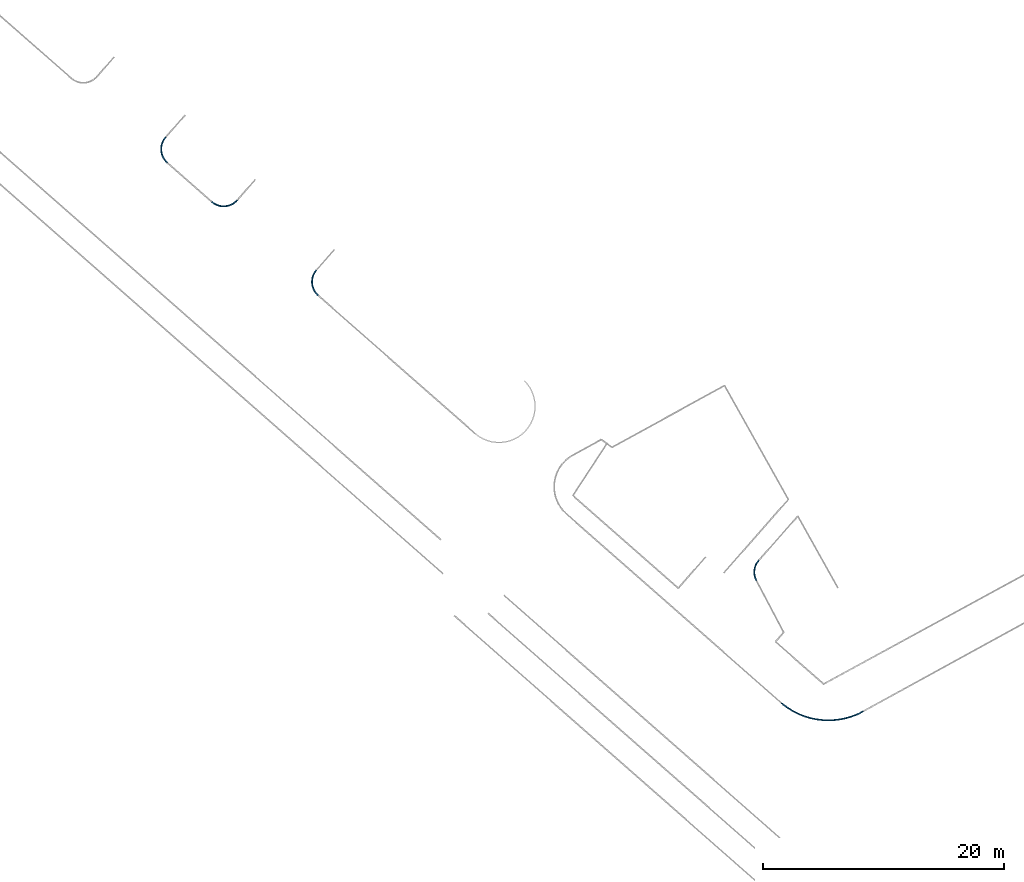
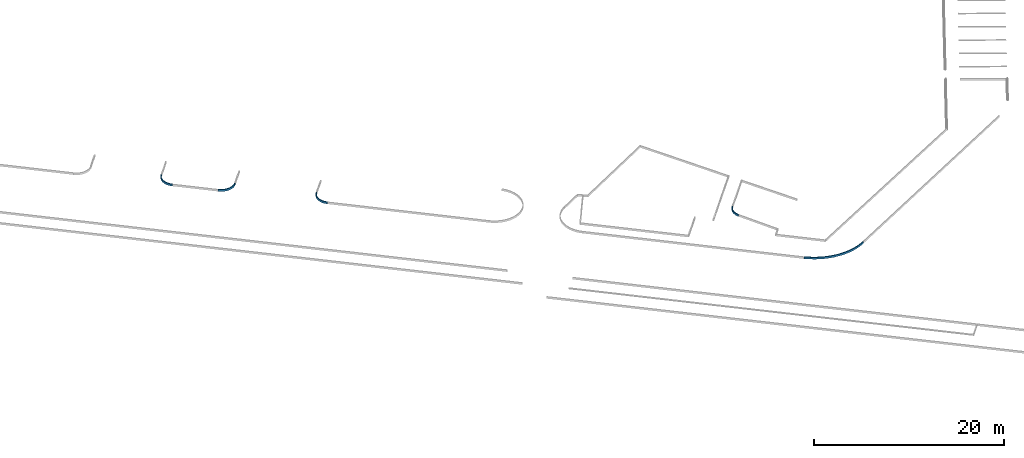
# One storey, part 21 of 24: 5 beams.
"""IFC2X3 building model written with IfcOpenShell, lengths in millimetres."""

import ifcopenshell
import ifcopenshell.guid

model = None  # the IFC model being written
_history = None  # IfcOwnerHistory: only IFC2X3 demands one
_inside = {}  # id of a spatial element -> (the spatial element, [elements in it])
_under = {}  # id of a project, library or spatial element -> (it, [spatial elements below it])
_declared = {}  # id of a project -> (the project, [libraries it declares])
_typed = {}  # id of a type object -> (the type object, [elements of that type])
_made_of = {}  # id of a material, layer set ... -> (it, [elements and type objects made of it])


def new_model(schema):
    """Start an empty IFC model of exactly this schema.

    Asked for "IFC4X3", IfcOpenShell would pick the latest addendum, in which some entities
    have other attributes; the version numbers below select the first issue.
    IFC2X3 requires an IfcOwnerHistory on every rooted entity: one is made here for all.
    """
    global model, _history
    if schema == "IFC4X3":
        model = ifcopenshell.file(schema_version=(4, 3, 0, 0))
    else:
        model = ifcopenshell.file(schema=schema)
    _inside.clear()
    _under.clear()
    _declared.clear()
    _typed.clear()
    _made_of.clear()
    _history = None
    if model.schema == "IFC2X3":
        org = make("IfcOrganization", Name="unknown")
        user = make(
            "IfcPersonAndOrganization",
            ThePerson=make("IfcPerson", FamilyName="unknown"),
            TheOrganization=org,
        )
        app = make(
            "IfcApplication",
            ApplicationDeveloper=org,
            Version="unknown",
            ApplicationFullName="unknown",
            ApplicationIdentifier="unknown",
        )
        _history = make(
            "IfcOwnerHistory",
            OwningUser=user,
            OwningApplication=app,
            ChangeAction="ADDED",
            CreationDate=0,
        )
    return model


def make(cls, **values):
    """One entity of the class cls with the attributes given. An attribute that is None is left unset."""
    return model.create_entity(
        cls, **{name: value for name, value in values.items() if value is not None}
    )


def entity(cls, *values):
    """Any entity or typed value of the class cls, its attributes in the order of the schema. None: left unset."""
    e = model.create_entity(cls)
    for i, value in enumerate(values):
        if value is not None:
            e[i] = value
    return e


def rooted(cls, **values):
    """An entity with a GlobalId (a new one), such as an element, a storey or a relation."""
    return make(cls, GlobalId=ifcopenshell.guid.new(), OwnerHistory=_history, **values)


def si_unit(unit_type, name, prefix=None):
    """IfcSIUnit, for example si_unit("LENGTHUNIT", "METRE", prefix="MILLI")."""
    return make("IfcSIUnit", UnitType=unit_type, Prefix=prefix, Name=name)


def converted_unit(unit_type, name, factor, base, dimensions=None, offset=None):
    """IfcConversionBasedUnit, such as the inch: factor (a typed value) times the base unit."""
    return make(
        "IfcConversionBasedUnit"
        if offset is None
        else "IfcConversionBasedUnitWithOffset",
        ConversionOffset=offset,
        Dimensions=None
        if dimensions is None
        else entity("IfcDimensionalExponents", *dimensions),
        UnitType=unit_type,
        Name=name,
        ConversionFactor=make(
            "IfcMeasureWithUnit", ValueComponent=factor, UnitComponent=base
        ),
    )


def derived_unit(unit_type, elements):
    """IfcDerivedUnit: a product of units, each with its exponent."""
    return make(
        "IfcDerivedUnit",
        Elements=[
            make("IfcDerivedUnitElement", Unit=unit, Exponent=power)
            for unit, power in elements
        ],
        UnitType=unit_type,
    )


def assignment(units):
    """IfcUnitAssignment: the units of a project."""
    return None if units is None else make("IfcUnitAssignment", Units=units)


def point(xyz):
    """IfcCartesianPoint."""
    return None if xyz is None else make("IfcCartesianPoint", Coordinates=xyz)


def direction(xyz):
    """IfcDirection."""
    return None if xyz is None else make("IfcDirection", DirectionRatios=xyz)


def frame(location, z_axis=None, x_axis=None):
    """IfcAxis2Placement3D, a coordinate frame: its origin and axes. An axis left out is left unset."""
    return make(
        "IfcAxis2Placement3D",
        Location=point(location),
        Axis=direction(z_axis),
        RefDirection=direction(x_axis),
    )


def origin():
    """The frame at (0, 0, 0) with its axes left unset."""
    return frame((0.0, 0.0, 0.0))


def place(relative_to, where):
    """IfcLocalPlacement: puts the frame where relative to a parent placement (None: the world)."""
    return make(
        "IfcLocalPlacement", PlacementRelTo=relative_to, RelativePlacement=where
    )


def context(
    kind, dimensions, precision=None, world=None, true_north=None, identifier=None
):
    """IfcGeometricRepresentationContext, for example the 3D "Model" context."""
    return make(
        "IfcGeometricRepresentationContext",
        ContextIdentifier=identifier,
        ContextType=kind,
        CoordinateSpaceDimension=dimensions,
        Precision=precision,
        WorldCoordinateSystem=world,
        TrueNorth=true_north,
    )


def subcontext(parent, identifier, kind, view, scale=None):
    """IfcGeometricRepresentationSubContext, for example "Body" below "Model"."""
    return make(
        "IfcGeometricRepresentationSubContext",
        ContextIdentifier=identifier,
        ContextType=kind,
        ParentContext=parent,
        TargetScale=scale,
        TargetView=view,
    )


def project(units=None, contexts=None):
    """IfcProject with its units and contexts."""
    return rooted(
        "IfcProject",
        Name="project",
        RepresentationContexts=contexts,
        UnitsInContext=assignment(units),
    )


def spatial(cls, under=None, at=None, **own):
    """A site, building, storey or space (cls), placed at a placement, below another one or the project."""
    s = rooted(cls, ObjectPlacement=at, **own)
    if under is not None:
        _under.setdefault(under.id(), (under, []))[1].append(s)
    return s


def faces_of(points, faces, orient=None, outer=None):
    """IfcFace entities. A face is a list of loops; a loop is a list of indices into points, from 0.

    orient and outer hold one flag for each loop. By default every Orientation is true, the
    first loop of a face is its IfcFaceOuterBound and the others are IfcFaceBound.
    """
    made = []
    for i, loops in enumerate(faces):
        bounds = []
        for j, loop in enumerate(loops):
            is_outer = j == 0 if outer is None else outer[i][j]
            bounds.append(
                make(
                    "IfcFaceOuterBound" if is_outer else "IfcFaceBound",
                    Bound=make("IfcPolyLoop", Polygon=[points[k] for k in loop]),
                    Orientation=True if orient is None else orient[i][j],
                )
            )
        made.append(make("IfcFace", Bounds=bounds))
    return made


def faceted_brep(points, faces, orient=None, outer=None, voids=None):
    """IfcFacetedBrep: a solid bounded by flat faces; with voids (closed shells), ...WithVoids."""
    shared = [point(p) for p in points]
    hull = make("IfcClosedShell", CfsFaces=faces_of(shared, faces, orient, outer))
    if voids is None:
        return make("IfcFacetedBrep", Outer=hull)
    return make(
        "IfcFacetedBrepWithVoids",
        Outer=hull,
        Voids=[
            make(cls, CfsFaces=faces_of(shared, fs, o, b)) for cls, fs, o, b in voids
        ],
    )


def shape(context_of_items, identifier, shape_type, items):
    """IfcShapeRepresentation: the items that make up one representation, for example the "Body"."""
    return make(
        "IfcShapeRepresentation",
        ContextOfItems=context_of_items,
        RepresentationIdentifier=identifier,
        RepresentationType=shape_type,
        Items=items,
    )


def material(Name=None, Category=None):
    """IfcMaterial."""
    return make("IfcMaterial", Name=Name, Category=Category)


def made_of(thing, what):
    """Note that an element or type object is made of a material, layer set ...; save() writes the relation."""
    if what is not None:
        _made_of.setdefault(what.id(), (what, []))[1].append(thing)
    return thing


def type_object(cls, material=None, **own):
    """A type object (cls), such as IfcWallType, which elements share."""
    return made_of(rooted(cls, **own), material)


def element(
    cls,
    number,
    at=None,
    inside=None,
    cuts=None,
    type_object=None,
    material=None,
    context=None,
    identifier="Body",
    shape_type=None,
    held_by="IfcProductDefinitionShape",
    body=None,
    shapes=None,
    **own,
):
    """One element of the class cls, such as IfcWall. Its Tag is "e" and its number.

    at: its placement. inside: the storey or other place that contains it. cuts: it is an
    opening in that element (IfcRelVoidsElement). A single representation is given by context,
    identifier, shape_type and body (its items); several are given by shapes. held_by: the class
    of the entity that holds the representations. save() writes the other relations.
    """
    e = rooted(cls, Tag="e%d" % number, ObjectPlacement=at, **own)
    if body is not None:
        shapes = [shape(context, identifier, shape_type, body)]
    if shapes is not None:
        e.Representation = make(held_by, Representations=shapes)
    if inside is not None:
        _inside.setdefault(inside.id(), (inside, []))[1].append(e)
    if cuts is not None:
        rooted(
            "IfcRelVoidsElement", RelatingBuildingElement=cuts, RelatedOpeningElement=e
        )
    if type_object is not None:
        _typed.setdefault(type_object.id(), (type_object, []))[1].append(e)
    return made_of(e, material)


def aggregate(whole, parts):
    """IfcRelAggregates: a whole, such as a stair, and the parts it consists of."""
    return rooted("IfcRelAggregates", RelatingObject=whole, RelatedObjects=parts)


def save(model, path):
    """Write the relations noted so far, then the file.

    IfcRelAggregates (storeys below a building ...), IfcRelContainedInSpatialStructure (elements
    in a storey), IfcRelDefinesByType, IfcRelAssociatesMaterial and IfcRelDeclares: one each for
    every whole, place, type object, material and project.
    """
    for whole, parts in _under.values():
        aggregate(whole, parts)
    for where, things in _inside.values():
        rooted(
            "IfcRelContainedInSpatialStructure",
            RelatedElements=things,
            RelatingStructure=where,
        )
    for kind, things in _typed.values():
        rooted("IfcRelDefinesByType", RelatedObjects=things, RelatingType=kind)
    for what, things in _made_of.values():
        rooted("IfcRelAssociatesMaterial", RelatedObjects=things, RelatingMaterial=what)
    for by, libraries in _declared.values():
        rooted("IfcRelDeclares", RelatingContext=by, RelatedDefinitions=libraries)
    model.write(path)


model = new_model("IFC2X3")

# Units and contexts
model_context = context("Model", 3, precision=0.01, world=origin(), true_north=direction((6.123031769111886e-17, 1.0)))
body_context = subcontext(model_context, "Body", "Model", "MODEL_VIEW")
ifc_project = project(units=[si_unit("LENGTHUNIT", "METRE", prefix="MILLI"), si_unit("AREAUNIT", "SQUARE_METRE"), si_unit("VOLUMEUNIT", "CUBIC_METRE"), converted_unit("PLANEANGLEUNIT", "DEGREE", entity("IfcRatioMeasure", 0.017453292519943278), si_unit("PLANEANGLEUNIT", "RADIAN"), dimensions=[0, 0, 0, 0, 0, 0, 0]), si_unit("MASSUNIT", "GRAM", prefix="KILO"), derived_unit("MASSDENSITYUNIT", [(si_unit("MASSUNIT", "GRAM", prefix="KILO"), 1), (si_unit("LENGTHUNIT", "METRE"), -3)]), derived_unit("MOMENTOFINERTIAUNIT", [(si_unit("LENGTHUNIT", "METRE"), 4)]), si_unit("TIMEUNIT", "SECOND"), si_unit("FREQUENCYUNIT", "HERTZ"), si_unit("THERMODYNAMICTEMPERATUREUNIT", "DEGREE_CELSIUS"), derived_unit("THERMALTRANSMITTANCEUNIT", [(si_unit("MASSUNIT", "GRAM", prefix="KILO"), 1), (si_unit("THERMODYNAMICTEMPERATUREUNIT", "KELVIN"), -1), (si_unit("TIMEUNIT", "SECOND"), -3)]), derived_unit("THERMALCONDUCTANCEUNIT", [(si_unit("MASSUNIT", "GRAM", prefix="KILO"), 1), (si_unit("LENGTHUNIT", "METRE"), 1), (si_unit("THERMODYNAMICTEMPERATUREUNIT", "KELVIN"), -1), (si_unit("TIMEUNIT", "SECOND"), -3)]), derived_unit("VOLUMETRICFLOWRATEUNIT", [(si_unit("LENGTHUNIT", "METRE"), 3), (si_unit("TIMEUNIT", "SECOND"), -1)]), derived_unit("MASSFLOWRATEUNIT", [(si_unit("MASSUNIT", "GRAM", prefix="KILO"), 1), (si_unit("TIMEUNIT", "SECOND"), -1)]), derived_unit("ROTATIONALFREQUENCYUNIT", [(si_unit("TIMEUNIT", "SECOND"), -1)]), si_unit("ELECTRICCURRENTUNIT", "AMPERE"), si_unit("ELECTRICVOLTAGEUNIT", "VOLT"), si_unit("POWERUNIT", "WATT"), converted_unit("FORCEUNIT", "KIP", entity("IfcRatioMeasure", 2.088543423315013e-05), si_unit("FORCEUNIT", "NEWTON"), dimensions=[1, 1, -2, 0, 0, 0, 0]), si_unit("ILLUMINANCEUNIT", "LUX"), si_unit("LUMINOUSFLUXUNIT", "LUMEN"), si_unit("LUMINOUSINTENSITYUNIT", "CANDELA"), derived_unit("USERDEFINED", [(si_unit("MASSUNIT", "GRAM", prefix="KILO"), -1), (si_unit("LENGTHUNIT", "METRE"), -2), (si_unit("TIMEUNIT", "SECOND"), 3), (si_unit("LUMINOUSFLUXUNIT", "LUMEN"), 1)]), derived_unit("USERDEFINED", [(si_unit("MASSUNIT", "GRAM", prefix="KILO"), 1), (si_unit("LENGTHUNIT", "METRE"), 3), (si_unit("TIMEUNIT", "SECOND"), -3), (si_unit("ELECTRICCURRENTUNIT", "AMPERE"), -2)]), derived_unit("USERDEFINED", [(si_unit("LENGTHUNIT", "METRE"), 2), (si_unit("TIMEUNIT", "SECOND"), -2)]), derived_unit("SOUNDPOWERUNIT", [(si_unit("MASSUNIT", "GRAM", prefix="KILO"), 1), (si_unit("LENGTHUNIT", "METRE"), 2), (si_unit("TIMEUNIT", "SECOND"), -3)]), derived_unit("SOUNDPRESSUREUNIT", [(si_unit("MASSUNIT", "GRAM", prefix="KILO"), 1), (si_unit("LENGTHUNIT", "METRE"), -1), (si_unit("TIMEUNIT", "SECOND"), -2)]), derived_unit("LINEARVELOCITYUNIT", [(si_unit("LENGTHUNIT", "METRE"), 1), (si_unit("TIMEUNIT", "SECOND"), -1)]), si_unit("PRESSUREUNIT", "PASCAL"), derived_unit("USERDEFINED", [(si_unit("LENGTHUNIT", "METRE"), -2), (si_unit("MASSUNIT", "GRAM", prefix="KILO"), 1), (si_unit("TIMEUNIT", "SECOND"), -2)]), derived_unit("LINEARFORCEUNIT", [(si_unit("MASSUNIT", "GRAM", prefix="KILO"), 1), (si_unit("LENGTHUNIT", "METRE"), 1), (si_unit("TIMEUNIT", "SECOND"), -2), (si_unit("LENGTHUNIT", "METRE"), -1)]), derived_unit("PLANARFORCEUNIT", [(si_unit("MASSUNIT", "GRAM", prefix="KILO"), 1), (si_unit("LENGTHUNIT", "METRE"), 1), (si_unit("TIMEUNIT", "SECOND"), -2), (si_unit("LENGTHUNIT", "METRE"), -2)]), derived_unit("SPECIFICHEATCAPACITYUNIT", [(si_unit("LENGTHUNIT", "METRE"), 2), (si_unit("TIMEUNIT", "SECOND"), -2), (si_unit("THERMODYNAMICTEMPERATUREUNIT", "KELVIN"), -1)]), derived_unit("VAPORPERMEABILITYUNIT", [(si_unit("TIMEUNIT", "SECOND"), 1), (si_unit("LENGTHUNIT", "METRE"), -1)]), derived_unit("DYNAMICVISCOSITYUNIT", [(si_unit("MASSUNIT", "GRAM", prefix="KILO"), 1), (si_unit("LENGTHUNIT", "METRE"), -1), (si_unit("TIMEUNIT", "SECOND"), -1)]), derived_unit("THERMALEXPANSIONCOEFFICIENTUNIT", [(si_unit("THERMODYNAMICTEMPERATUREUNIT", "KELVIN"), -1)])], contexts=[model_context])

# Site, building, storey
site_placement = place(None, frame((0.0, 0.0, 0.0), z_axis=(0.0, 0.0, 1.0), x_axis=(0.8191520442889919, 0.5735764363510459, 0.0)))
site = spatial("IfcSite", under=ifc_project, at=site_placement, Name="Default", CompositionType="ELEMENT")
building_placement = place(site_placement, origin())
building = spatial("IfcBuilding", under=site, at=building_placement, CompositionType="ELEMENT")
storey_placement = place(building_placement, frame((0.0, 0.0, -1150.0)))
storey = spatial("IfcBuildingStorey", under=building, at=storey_placement, Name="6.EG KH -1.15", CompositionType="ELEMENT", Elevation=-1150.0000000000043)

# Beams
ifc_material = material(Name="Paveta_bordur")
beam_type_1 = type_object("IfcBeamType", Name="Beam-140", PredefinedType="NOTDEFINED")
beam_1_placement = place(storey_placement, frame((-118414.87371550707, 202766.50859707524, 910.0)))
element("IfcBeam", 1, at=beam_1_placement, inside=storey, type_object=beam_type_1, material=ifc_material, Name="Beam-140 237508:Beam-140 237508", ObjectType="Beam-140 237508:Beam-140 237508", context=body_context, shape_type="Brep", body=[
    faceted_brep([(142.16645180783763, 25.206299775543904, 0.0), (142.16645180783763, 25.206299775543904, 250.0), (44.9938251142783, 1.5952722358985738, 250.0), (44.9938251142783, 1.5952722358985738, 0.0), (1185.1986215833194, 1873.741915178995, 250.0), (1208.8096485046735, 1776.5692883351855, 250.0), (1208.8096485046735, 1776.5692883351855, 0.0), (1185.1986215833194, 1873.741915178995, 0.0), (116.58802424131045, 156.67315060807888, 250.0), (116.58802424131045, 156.67315060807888, 0.0), (103.2489404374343, 289.93926658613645, 250.0), (103.2489404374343, 289.93926658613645, 0.0), (102.26300475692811, 423.86766818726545, 250.0), (102.26300475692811, 423.86766818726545, 0.0), (220.44287017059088, 943.4711680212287, 0.0), (220.44287017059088, 943.4711680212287, 250.0), (172.98170868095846, 818.2304918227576, 250.0), (172.98170868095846, 818.2304918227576, 0.0), (137.2787599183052, 689.1449067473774, 250.0), (137.2787599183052, 689.1449067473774, 0.0), (113.63862885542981, 557.3157255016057, 0.0), (113.63862885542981, 557.3157255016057, 250.0), (279.2573224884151, 1063.7984260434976, 250.0), (279.2573224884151, 1063.7984260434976, 0.0), (348.9232814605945, 1178.1856761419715, 0.0), (348.9232814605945, 1178.1856761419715, 250.0), (518.3447474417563, 1385.2955099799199, 250.0), (428.8463816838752, 1285.6570066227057, 250.0), (428.8463816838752, 1285.6570066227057, 0.0), (518.3447474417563, 1385.2955099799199, 0.0), (616.6548102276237, 1476.2511056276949, 250.0), (616.6548102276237, 1476.2511056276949, 0.0), (1080.2636914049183, 1738.9697439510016, 0.0), (1080.2636914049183, 1738.9697439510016, 250.0), (955.7353369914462, 1689.6698679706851, 250.0), (955.7353369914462, 1689.6698679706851, 0.0), (836.2870172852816, 1629.090269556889, 250.0), (722.9378232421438, 1557.747792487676, 250.0), (722.9378232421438, 1557.747792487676, 0.0), (836.2870172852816, 1629.090269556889, 0.0), (481.1415670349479, 1488.9671708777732, 250.0), (387.47681154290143, 1391.4408185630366, 250.0), (302.6684604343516, 1286.1221620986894, 250.0), (227.36195647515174, 1173.8127400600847, 250.0), (162.13042763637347, 1055.3672949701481, 250.0), (107.47032524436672, 931.6872681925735, 250.0), (63.79764568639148, 803.7139394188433, 250.0), (31.444764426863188, 672.4212629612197, 250.0), (10.6579064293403, 538.8084553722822, 250.0), (1.5952722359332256, 403.8923908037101, 250.0), (4.325833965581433, 268.69986197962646, 250.0), (18.828810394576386, 134.25976568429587, 250.0), (1055.3193876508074, 1836.113994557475, 250.0), (929.2138728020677, 1787.3095383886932, 250.0), (807.8418161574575, 1727.6999780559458, 250.0), (692.1269323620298, 1657.738978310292, 250.0), (582.9498815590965, 1577.9589846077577, 250.0), (18.828810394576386, 134.25976568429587, 0.0), (4.325833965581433, 268.69986197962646, 0.0), (1.5952722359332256, 403.8923908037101, 0.0), (107.47032524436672, 931.6872681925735, 0.0), (63.79764568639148, 803.7139394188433, 0.0), (31.444764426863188, 672.4212629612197, 0.0), (10.6579064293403, 538.8084553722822, 0.0), (162.13042763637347, 1055.3672949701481, 0.0), (227.36195647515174, 1173.8127400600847, 0.0), (481.1415670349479, 1488.9671708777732, 0.0), (387.47681154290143, 1391.4408185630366, 0.0), (302.6684604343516, 1286.1221620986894, 0.0), (582.9498815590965, 1577.9589846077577, 0.0), (1055.3193876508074, 1836.113994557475, 0.0), (929.2138728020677, 1787.3095383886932, 0.0), (807.8418161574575, 1727.6999780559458, 0.0), (692.1269323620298, 1657.738978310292, 0.0)], [[[0, 1, 2, 3]], [[4, 5, 6, 7]], [[8, 1, 0, 9]], [[10, 8, 9, 11]], [[12, 10, 11, 13]], [[14, 15, 16, 17]], [[16, 18, 19, 17]], [[20, 19, 18, 21]], [[22, 15, 14, 23]], [[20, 21, 12, 13]], [[23, 24, 25, 22]], [[26, 27, 28, 29]], [[27, 25, 24, 28]], [[30, 26, 29, 31]], [[32, 33, 34, 35]], [[36, 37, 38, 39]], [[34, 36, 39, 35]], [[38, 37, 30, 31]], [[5, 33, 32, 6]], [[40, 41, 42, 43, 44, 45, 46, 47, 48, 49, 50, 51, 2, 1, 8, 10, 12, 21, 18, 16, 15, 22, 25, 27, 26, 30, 37, 36, 34, 33, 5, 4, 52, 53, 54, 55, 56]], [[3, 2, 51, 57]], [[57, 51, 50, 58]], [[58, 50, 49, 59]], [[46, 45, 60, 61]], [[61, 62, 47, 46]], [[48, 47, 62, 63]], [[64, 60, 45, 44]], [[49, 48, 63, 59]], [[44, 43, 65, 64]], [[66, 67, 41, 40]], [[67, 68, 42, 41]], [[69, 66, 40, 56]], [[53, 52, 70, 71]], [[72, 73, 55, 54]], [[71, 72, 54, 53]], [[56, 55, 73, 69]], [[7, 70, 52, 4]], [[43, 42, 68, 65]], [[31, 29, 28, 24, 23, 14, 17, 19, 20, 13, 11, 9, 0, 3, 57, 58, 59, 63, 62, 61, 60, 64, 65, 68, 67, 66, 69, 73, 72, 71, 70, 7, 6, 32, 35, 39, 38]]]),
])
beam_type_2 = type_object("IfcBeamType", Name="Beam-142", PredefinedType="NOTDEFINED")
beam_2_placement = place(storey_placement, frame((-102140.89057408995, 162514.98029633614, 910.0)))
element("IfcBeam", 2, at=beam_2_placement, inside=storey, type_object=beam_type_2, material=ifc_material, Name="Beam-142 237788:Beam-142 237788", ObjectType="Beam-142 237788:Beam-142 237788", context=body_context, shape_type="Brep", body=[
    faceted_brep([(100.84782276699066, 1.5952722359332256, 0.0), (100.84782276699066, 1.5952722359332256, 250.0), (1.5952722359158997, 13.799009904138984, 250.0), (1.5952722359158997, 13.799009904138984, 0.0), (1171.7634016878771, 1306.245847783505, 250.0), (1193.739442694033, 1208.6904603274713, 250.0), (1193.739442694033, 1208.6904603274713, 0.0), (1171.7634016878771, 1306.245847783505, 0.0), (123.35877227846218, 133.10500980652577, 250.0), (123.35877227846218, 133.10500980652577, 0.0), (158.16246385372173, 261.9081812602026, 250.0), (158.16246385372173, 261.9081812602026, 0.0), (332.70285296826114, 620.7959435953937, 0.0), (332.70285296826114, 620.7959435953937, 250.0), (263.30238623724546, 506.84363277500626, 250.0), (263.30238623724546, 506.84363277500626, 0.0), (204.94913842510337, 386.8584153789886, 0.0), (204.94913842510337, 386.8584153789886, 250.0), (412.5328620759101, 727.7011519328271, 0.0), (412.5328620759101, 727.7011519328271, 250.0), (502.08191222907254, 826.6077823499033, 0.0), (502.08191222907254, 826.6077823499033, 250.0), (600.5530008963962, 916.6355481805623, 250.0), (600.5530008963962, 916.6355481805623, 0.0), (707.0697178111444, 996.9831862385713, 0.0), (707.0697178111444, 996.9831862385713, 250.0), (1065.1066098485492, 1173.2623890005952, 0.0), (1065.1066098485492, 1173.2623890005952, 250.0), (940.3847952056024, 1125.870165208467, 250.0), (940.3847952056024, 1125.870165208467, 0.0), (820.6840451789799, 1066.9355882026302, 250.0), (820.6840451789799, 1066.9355882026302, 0.0), (684.7093071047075, 1102.135521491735, 250.0), (576.4275558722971, 1025.496445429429, 250.0), (475.26897681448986, 939.674376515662, 250.0), (382.0099537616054, 845.3279921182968, 250.0), (297.3662420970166, 743.1813930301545, 250.0), (221.98747539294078, 634.0185460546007, 250.0), (156.45217952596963, 518.6772671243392, 250.0), (101.26333253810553, 398.0427911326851, 250.0), (56.844504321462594, 273.04097782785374, 250.0), (23.536605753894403, 144.63120591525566, 250.0), (1043.7483493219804, 1271.4517103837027, 250.0), (919.2698202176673, 1225.586893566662, 250.0), (799.2831769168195, 1169.003406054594, 250.0), (23.536605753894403, 144.63120591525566, 0.0), (56.844504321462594, 273.04097782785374, 0.0), (221.98747539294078, 634.0185460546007, 0.0), (156.45217952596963, 518.6772671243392, 0.0), (101.26333253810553, 398.0427911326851, 0.0), (297.3662420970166, 743.1813930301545, 0.0), (382.0099537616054, 845.3279921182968, 0.0), (576.4275558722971, 1025.496445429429, 0.0), (475.26897681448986, 939.674376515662, 0.0), (684.7093071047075, 1102.135521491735, 0.0), (1043.7483493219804, 1271.4517103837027, 0.0), (919.2698202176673, 1225.586893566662, 0.0), (799.2831769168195, 1169.003406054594, 0.0)], [[[0, 1, 2, 3]], [[4, 5, 6, 7]], [[8, 1, 0, 9]], [[10, 8, 9, 11]], [[12, 13, 14, 15]], [[16, 15, 14, 17]], [[18, 19, 13, 12]], [[16, 17, 10, 11]], [[18, 20, 21, 19]], [[22, 21, 20, 23]], [[22, 23, 24, 25]], [[26, 27, 28, 29]], [[28, 30, 31, 29]], [[30, 25, 24, 31]], [[5, 27, 26, 6]], [[32, 33, 34, 35, 36, 37, 38, 39, 40, 41, 2, 1, 8, 10, 17, 14, 13, 19, 21, 22, 25, 30, 28, 27, 5, 4, 42, 43, 44]], [[3, 2, 41, 45]], [[45, 41, 40, 46]], [[38, 37, 47, 48]], [[39, 38, 48, 49]], [[37, 36, 50, 47]], [[40, 39, 49, 46]], [[51, 50, 36, 35]], [[52, 53, 34, 33]], [[32, 54, 52, 33]], [[43, 42, 55, 56]], [[56, 57, 44, 43]], [[57, 54, 32, 44]], [[7, 55, 42, 4]], [[35, 34, 53, 51]], [[31, 24, 23, 20, 18, 12, 15, 16, 11, 9, 0, 3, 45, 46, 49, 48, 47, 50, 51, 53, 52, 54, 57, 56, 55, 7, 6, 26, 29]]]),
])
beam_type_3 = type_object("IfcBeamType", Name="Beam-143", PredefinedType="NOTDEFINED")
beam_3_placement = place(storey_placement, frame((-122354.44137643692, 218980.03983483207, 910.0)))
element("IfcBeam", 3, at=beam_3_placement, inside=storey, type_object=beam_type_3, material=ifc_material, Name="Beam-143 237867:Beam-143 237867", ObjectType="Beam-143 237867:Beam-143 237867", context=body_context, shape_type="Brep", body=[
    faceted_brep([(1208.8096397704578, 1776.5692957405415, 250.0), (1208.8096397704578, 1776.5692957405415, 0.0), (1185.1986122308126, 1873.7419224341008, 0.0), (1185.1986122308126, 1873.7419224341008, 250.0), (44.993827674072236, 1.5952722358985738, 0.0), (142.16645421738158, 25.206300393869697, 0.0), (142.16645421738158, 25.206300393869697, 250.0), (44.993827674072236, 1.5952722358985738, 250.0), (63.797643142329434, 803.7139395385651, 0.0), (107.47032188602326, 931.6872685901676, 0.0), (162.13042349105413, 1055.3672957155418, 0.0), (227.36195157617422, 1173.8127412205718, 0.0), (302.66845482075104, 1286.1221637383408, 0.0), (387.4768052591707, 1391.440820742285, 0.0), (481.1415601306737, 1488.9671736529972, 0.0), (582.9498740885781, 1577.958988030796, 0.0), (692.1269243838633, 1657.7389824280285, 0.0), (807.8418077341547, 1727.6999829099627, 0.0), (929.2138639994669, 1787.3095440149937, 0.0), (1055.319378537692, 1836.114000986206, 0.0), (1080.2636829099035, 1738.9697505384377, 0.0), (955.7353288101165, 1689.6698737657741, 0.0), (836.287009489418, 1629.0902745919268, 0.0), (722.9378159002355, 1557.747796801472, 0.0), (616.6548034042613, 1476.2511092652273, 0.0), (518.3447411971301, 1385.2955129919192, 0.0), (428.8463760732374, 1285.6570090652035, 0.0), (348.9232765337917, 1178.1856780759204, 0.0), (279.2573182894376, 1063.7984275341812, 0.0), (220.44286673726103, 943.4711691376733, 0.0), (172.98170604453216, 818.2304926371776, 0.0), (137.27875810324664, 689.1449073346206, 0.0), (113.6386278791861, 557.3157259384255, 0.0), (102.26300462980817, 423.86766855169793, 0.0), (103.24894116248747, 289.93926695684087, 0.0), (116.5880258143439, 156.67315106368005, 0.0), (18.828812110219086, 134.25976551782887, 0.0), (4.325834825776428, 268.6998617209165, 0.0), (1.5952722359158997, 403.89239052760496, 0.0), (10.657905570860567, 538.8084551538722, 0.0), (31.44476271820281, 672.4212628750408, 0.0), (1055.319378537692, 1836.114000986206, 250.0), (929.2138639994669, 1787.3095440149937, 250.0), (807.8418077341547, 1727.6999829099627, 250.0), (387.4768052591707, 1391.440820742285, 250.0), (302.66845482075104, 1286.1221637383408, 250.0), (582.9498740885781, 1577.958988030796, 250.0), (481.1415601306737, 1488.9671736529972, 250.0), (227.36195157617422, 1173.8127412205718, 250.0), (692.1269243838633, 1657.7389824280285, 250.0), (107.47032188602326, 931.6872685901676, 250.0), (63.797643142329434, 803.7139395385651, 250.0), (162.13042349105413, 1055.3672957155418, 250.0), (31.44476271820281, 672.4212628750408, 250.0), (18.828812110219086, 134.25976551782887, 250.0), (4.325834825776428, 268.6998617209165, 250.0), (10.657905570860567, 538.8084551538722, 250.0), (1.5952722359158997, 403.89239052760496, 250.0), (137.27875810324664, 689.1449073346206, 250.0), (172.98170604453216, 818.2304926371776, 250.0), (220.44286673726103, 943.4711691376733, 250.0), (279.2573182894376, 1063.7984275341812, 250.0), (348.9232765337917, 1178.1856780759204, 250.0), (428.8463760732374, 1285.6570090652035, 250.0), (518.3447411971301, 1385.2955129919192, 250.0), (616.6548034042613, 1476.2511092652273, 250.0), (722.9378159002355, 1557.747796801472, 250.0), (836.287009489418, 1629.0902745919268, 250.0), (955.7353288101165, 1689.6698737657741, 250.0), (1080.2636829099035, 1738.9697505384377, 250.0), (116.5880258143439, 156.67315106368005, 250.0), (103.24894116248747, 289.93926695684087, 250.0), (102.26300462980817, 423.86766855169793, 250.0), (113.6386278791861, 557.3157259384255, 250.0)], [[[0, 1, 2, 3]], [[4, 5, 6, 7]], [[8, 9, 10, 11, 12, 13, 14, 15, 16, 17, 18, 19, 2, 1, 20, 21, 22, 23, 24, 25, 26, 27, 28, 29, 30, 31, 32, 33, 34, 35, 5, 4, 36, 37, 38, 39, 40]], [[41, 3, 2, 19]], [[19, 18, 42, 41]], [[17, 43, 42, 18]], [[44, 13, 12, 45]], [[46, 15, 14, 47]], [[13, 44, 47, 14]], [[12, 11, 48, 45]], [[43, 17, 16, 49]], [[46, 49, 16, 15]], [[50, 9, 8, 51]], [[52, 10, 9, 50]], [[51, 8, 40, 53]], [[37, 36, 54, 55]], [[56, 39, 38, 57]], [[57, 38, 37, 55]], [[40, 39, 56, 53]], [[54, 36, 4, 7]], [[48, 11, 10, 52]], [[58, 59, 60, 61, 62, 63, 64, 65, 66, 67, 68, 69, 0, 3, 41, 42, 43, 49, 46, 47, 44, 45, 48, 52, 50, 51, 53, 56, 57, 55, 54, 7, 6, 70, 71, 72, 73]], [[20, 1, 0, 69]], [[68, 21, 20, 69]], [[67, 22, 21, 68]], [[26, 25, 64, 63]], [[24, 23, 66, 65]], [[24, 65, 64, 25]], [[63, 62, 27, 26]], [[23, 22, 67, 66]], [[62, 61, 28, 27]], [[30, 29, 60, 59]], [[29, 28, 61, 60]], [[31, 30, 59, 58]], [[71, 70, 35, 34]], [[33, 32, 73, 72]], [[34, 33, 72, 71]], [[58, 73, 32, 31]], [[5, 35, 70, 6]]]),
])
beam_type_4 = type_object("IfcBeamType", Name="Beam-143", PredefinedType="NOTDEFINED")
beam_4_placement = place(storey_placement, frame((-121150.9550114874, 213022.02426898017, 910.0)))
element("IfcBeam", 4, at=beam_4_placement, inside=storey, type_object=beam_type_4, material=ifc_material, Name="Beam-143 237871:Beam-143 237871", ObjectType="Beam-143 237871:Beam-143 237871", context=body_context, shape_type="Brep", body=[
    faceted_brep([(98.76789892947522, 1208.8096393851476, 250.0), (98.76789892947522, 1208.8096393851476, 0.0), (1.5952722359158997, 1185.1986118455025, 0.0), (1.5952722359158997, 1185.1986118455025, 250.0), (1873.741903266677, 44.993822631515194, 250.0), (1873.741903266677, 44.993822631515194, 0.0), (1850.1308763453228, 142.1664494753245, 0.0), (1850.1308763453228, 142.1664494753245, 250.0), (1071.6232425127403, 63.79764645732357, 0.0), (943.6499148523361, 107.47032588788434, 0.0), (819.9698891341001, 162.13042796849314, 0.0), (701.5244450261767, 227.36195632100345, 0.0), (589.215023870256, 302.66845963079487, 0.0), (483.8963681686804, 387.4768099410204, 0.0), (386.3700164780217, 481.141564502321, 0.0), (297.3782032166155, 582.9498779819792, 0.0), (217.59820981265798, 692.126927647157, 0.0), (147.63721018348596, 807.8418102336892, 0.0), (88.02764977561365, 929.2138656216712, 0.0), (39.223193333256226, 1055.3193791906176, 0.0), (136.36744377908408, 1080.2636835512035, 0.0), (185.66732001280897, 955.7353304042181, 0.0), (246.24691847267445, 836.2870119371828, 0.0), (317.58939538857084, 722.937819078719, 0.0), (399.08608190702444, 616.6548071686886, 0.0), (490.04167703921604, 518.3447453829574, 0.0), (589.6801797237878, 428.84638049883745, 0.0), (697.1515093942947, 348.9232810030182, 0.0), (811.5387585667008, 279.25732259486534, 0.0), (931.8660155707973, 220.44287066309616, 0.0), (1057.106690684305, 172.9817093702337, 0.0), (1186.1922746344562, 137.27876060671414, 0.0), (1318.0214547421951, 113.6386293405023, 0.0), (1451.4695109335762, 102.2630048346, 0.0), (1585.3979114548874, 103.2489399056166, 0.0), (1718.6640264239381, 116.5880229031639, 0.0), (1741.0774107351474, 18.828808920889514, 0.0), (1606.637315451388, 4.325833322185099, 0.0), (1471.4447877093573, 1.5952722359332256, 0.0), (1336.5287242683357, 10.65790688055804, 0.0), (1202.915917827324, 31.444765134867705, 0.0), (39.223193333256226, 1055.3193791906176, 250.0), (88.02764977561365, 929.2138656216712, 250.0), (147.63721018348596, 807.8418102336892, 250.0), (483.8963681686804, 387.4768099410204, 250.0), (589.215023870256, 302.66845963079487, 250.0), (297.3782032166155, 582.9498779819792, 250.0), (386.3700164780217, 481.141564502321, 250.0), (701.5244450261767, 227.36195632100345, 250.0), (217.59820981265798, 692.126927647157, 250.0), (943.6499148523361, 107.47032588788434, 250.0), (1071.6232425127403, 63.79764645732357, 250.0), (819.9698891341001, 162.13042796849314, 250.0), (1202.915917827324, 31.444765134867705, 250.0), (1741.0774107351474, 18.828808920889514, 250.0), (1606.637315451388, 4.325833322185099, 250.0), (1336.5287242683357, 10.65790688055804, 250.0), (1471.4447877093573, 1.5952722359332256, 250.0), (1186.1922746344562, 137.27876060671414, 250.0), (1057.106690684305, 172.9817093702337, 250.0), (931.8660155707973, 220.44287066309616, 250.0), (811.5387585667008, 279.25732259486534, 250.0), (697.1515093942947, 348.9232810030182, 250.0), (589.6801797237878, 428.84638049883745, 250.0), (490.04167703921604, 518.3447453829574, 250.0), (399.08608190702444, 616.6548071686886, 250.0), (317.58939538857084, 722.937819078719, 250.0), (246.24691847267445, 836.2870119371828, 250.0), (185.66732001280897, 955.7353304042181, 250.0), (136.36744377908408, 1080.2636835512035, 250.0), (1718.6640264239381, 116.5880229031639, 250.0), (1585.3979114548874, 103.2489399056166, 250.0), (1451.4695109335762, 102.2630048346, 250.0), (1318.0214547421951, 113.6386293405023, 250.0)], [[[0, 1, 2, 3]], [[4, 5, 6, 7]], [[8, 9, 10, 11, 12, 13, 14, 15, 16, 17, 18, 19, 2, 1, 20, 21, 22, 23, 24, 25, 26, 27, 28, 29, 30, 31, 32, 33, 34, 35, 6, 5, 36, 37, 38, 39, 40]], [[41, 3, 2, 19]], [[19, 18, 42, 41]], [[17, 43, 42, 18]], [[44, 13, 12, 45]], [[46, 15, 14, 47]], [[13, 44, 47, 14]], [[12, 11, 48, 45]], [[43, 17, 16, 49]], [[46, 49, 16, 15]], [[50, 9, 8, 51]], [[52, 10, 9, 50]], [[51, 8, 40, 53]], [[37, 36, 54, 55]], [[56, 39, 38, 57]], [[57, 38, 37, 55]], [[40, 39, 56, 53]], [[54, 36, 5, 4]], [[48, 11, 10, 52]], [[58, 59, 60, 61, 62, 63, 64, 65, 66, 67, 68, 69, 0, 3, 41, 42, 43, 49, 46, 47, 44, 45, 48, 52, 50, 51, 53, 56, 57, 55, 54, 4, 7, 70, 71, 72, 73]], [[20, 1, 0, 69]], [[68, 21, 20, 69]], [[67, 22, 21, 68]], [[26, 25, 64, 63]], [[24, 23, 66, 65]], [[24, 65, 64, 25]], [[63, 62, 27, 26]], [[23, 22, 67, 66]], [[62, 61, 28, 27]], [[30, 29, 60, 59]], [[29, 28, 61, 60]], [[31, 30, 59, 58]], [[71, 70, 35, 34]], [[33, 32, 73, 72]], [[34, 33, 72, 71]], [[58, 73, 32, 31]], [[6, 35, 70, 7]]]),
])
beam_type_5 = type_object("IfcBeamType", Name="Beam-141", PredefinedType="NOTDEFINED")
beam_5_placement = place(storey_placement, frame((-106271.65055006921, 148477.61012547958, 920.0)))
element("IfcBeam", 5, at=beam_5_placement, inside=storey, type_object=beam_type_5, material=ifc_material, Name="Beam-141 238103:Beam-141 238103", ObjectType="Beam-141 238103:Beam-141 238103", context=body_context, shape_type="Brep", body=[
    faceted_brep([(98.36790225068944, 4518.155627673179, 250.0), (98.36790225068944, 4518.155627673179, 0.0), (1.5952722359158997, 4492.955268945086, 0.0), (1.5952722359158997, 4492.955268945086, 250.0), (5202.630162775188, 1.5952722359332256, 250.0), (5202.630162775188, 1.5952722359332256, 0.0), (5213.465987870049, 101.0064632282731, 0.0), (5213.465987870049, 101.0064632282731, 250.0), (2665.2521951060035, 876.889362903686, 0.0), (2218.7841538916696, 1182.666087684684, 0.0), (1911.7384797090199, 1447.8157525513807, 0.0), (1604.6928055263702, 1712.9654174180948, 0.0), (1237.1452906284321, 2110.132814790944, 0.0), (906.5433111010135, 2538.543188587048, 0.0), (615.5299116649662, 2994.771550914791, 0.0), (366.43164048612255, 3475.170519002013, 0.0), (161.23994925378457, 3975.899474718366, 0.0), (171.18505365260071, 4262.143712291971, 0.0), (255.3747670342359, 4009.643156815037, 0.0), (350.7686915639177, 3761.1588765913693, 0.0), (457.1760717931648, 3517.1877557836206, 0.0), (574.3841291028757, 3278.2176537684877, 0.0), (702.1584871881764, 3044.7264295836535, 0.0), (840.2436407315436, 2817.1809863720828, 0.0), (988.3634663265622, 2596.0363377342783, 0.0), (1146.22177463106, 2381.734697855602, 0.0), (1313.5029026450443, 2174.7045972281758, 0.0), (1489.8723449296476, 1975.360025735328, 0.0), (1674.977422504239, 1784.0996048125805, 0.0), (1868.4479880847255, 1601.3057903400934, 0.0), (2069.8971662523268, 1427.3441078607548, 0.0), (2278.9221270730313, 1262.5624216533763, 0.0), (2495.1048916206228, 1107.2902391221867, 0.0), (2718.0131677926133, 961.8380518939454, 0.0), (2947.2012147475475, 826.4967149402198, 0.0), (3182.2107342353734, 701.5368649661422, 0.0), (3422.5717870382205, 587.2083792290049, 0.0), (3667.8037326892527, 483.7398758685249, 0.0), (3917.4161905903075, 391.338256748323, 0.0), (4170.910020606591, 310.1882937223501, 0.0), (4427.778321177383, 240.45225915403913, 0.0), (4687.507442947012, 182.26960142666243, 0.0), (4949.578015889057, 135.75666609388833, 0.0), (4667.835189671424, 84.22368131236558, 0.0), (4142.558611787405, 214.29148659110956, 0.0), (3630.9998277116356, 390.7588424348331, 0.0), (3137.248567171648, 612.2149553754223, 0.0), (366.43164048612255, 3475.170519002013, 250.0), (161.23994925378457, 3975.899474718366, 250.0), (1237.1452906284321, 2110.132814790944, 250.0), (906.5433111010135, 2538.543188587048, 250.0), (615.5299116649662, 2994.771550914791, 250.0), (1604.6928055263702, 1712.9654174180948, 250.0), (2218.7841538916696, 1182.666087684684, 250.0), (1911.7384797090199, 1447.8157525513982, 250.0), (2665.2521951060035, 876.889362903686, 250.0), (3137.248567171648, 612.2149553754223, 250.0), (4667.835189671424, 84.22368131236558, 250.0), (4142.558611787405, 214.29148659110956, 250.0), (3630.9998277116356, 390.7588424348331, 250.0), (4949.578015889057, 135.75666609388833, 250.0), (4687.507442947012, 182.26960142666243, 250.0), (4427.778321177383, 240.45225915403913, 250.0), (4170.910020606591, 310.1882937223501, 250.0), (3917.4161905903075, 391.338256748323, 250.0), (3667.8037326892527, 483.7398758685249, 250.0), (3422.5717870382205, 587.2083792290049, 250.0), (3182.2107342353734, 701.5368649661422, 250.0), (2947.2012147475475, 826.4967149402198, 250.0), (2718.0131677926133, 961.8380518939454, 250.0), (2495.1048916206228, 1107.2902391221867, 250.0), (2278.9221270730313, 1262.5624216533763, 250.0), (2069.8971662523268, 1427.3441078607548, 250.0), (1868.4479880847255, 1601.3057903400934, 250.0), (1674.977422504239, 1784.0996048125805, 250.0), (1489.8723449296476, 1975.360025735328, 250.0), (1313.5029026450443, 2174.7045972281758, 250.0), (1146.22177463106, 2381.734697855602, 250.0), (988.3634663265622, 2596.0363377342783, 250.0), (840.2436407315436, 2817.1809863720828, 250.0), (702.1584871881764, 3044.7264295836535, 250.0), (574.3841291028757, 3278.2176537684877, 250.0), (457.1760717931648, 3517.1877557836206, 250.0), (350.7686915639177, 3761.1588765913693, 250.0), (255.3747670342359, 4009.643156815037, 250.0), (171.18505365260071, 4262.143712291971, 250.0)], [[[0, 1, 2, 3]], [[4, 5, 6, 7]], [[8, 9, 10, 11, 12, 13, 14, 15, 16, 2, 1, 17, 18, 19, 20, 21, 22, 23, 24, 25, 26, 27, 28, 29, 30, 31, 32, 33, 34, 35, 36, 37, 38, 39, 40, 41, 42, 6, 5, 43, 44, 45, 46]], [[16, 15, 47, 48]], [[2, 16, 48, 3]], [[13, 12, 49, 50]], [[51, 14, 13, 50]], [[15, 14, 51, 47]], [[49, 12, 11, 52]], [[52, 11, 10, 9, 53, 54]], [[53, 9, 8, 55]], [[46, 56, 55, 8]], [[44, 43, 57, 58]], [[59, 45, 44, 58]], [[56, 46, 45, 59]], [[57, 43, 5, 4]], [[56, 59, 58, 57, 4, 7, 60, 61, 62, 63, 64, 65, 66, 67, 68, 69, 70, 71, 72, 73, 74, 75, 76, 77, 78, 79, 80, 81, 82, 83, 84, 85, 0, 3, 48, 47, 51, 50, 49, 52, 54, 53, 55]], [[17, 1, 0, 85]], [[18, 17, 85, 84]], [[82, 81, 21, 20]], [[82, 20, 19, 83]], [[21, 81, 80, 22]], [[19, 18, 84, 83]], [[27, 26, 76, 75]], [[28, 27, 75, 74]], [[24, 23, 79, 78]], [[78, 77, 25, 24]], [[26, 25, 77, 76]], [[23, 22, 80, 79]], [[29, 28, 74, 73]], [[73, 72, 30, 29]], [[33, 69, 68, 34]], [[34, 68, 67, 35]], [[31, 30, 72, 71]], [[32, 31, 71, 70]], [[32, 70, 69, 33]], [[36, 35, 67, 66]], [[41, 40, 62, 61]], [[42, 41, 61, 60]], [[38, 37, 65, 64]], [[64, 63, 39, 38]], [[40, 39, 63, 62]], [[37, 36, 66, 65]], [[6, 42, 60, 7]]]),
])

save(model, "model.ifc")
